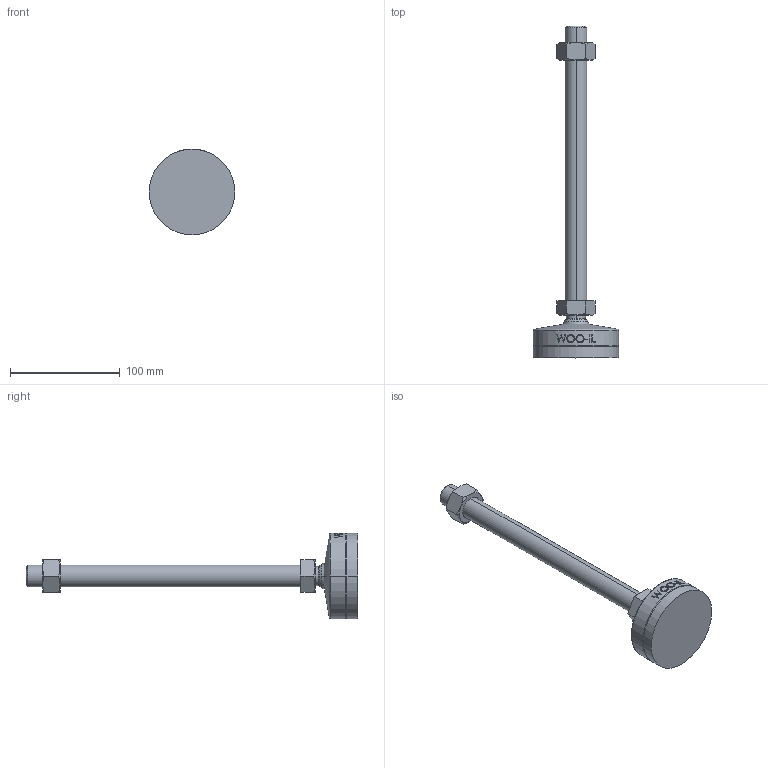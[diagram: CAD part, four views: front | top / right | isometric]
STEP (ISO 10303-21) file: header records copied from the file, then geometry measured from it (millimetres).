
FILE_DESCRIPTION (( 'STEP AP214' ), '1' );
FILE_NAME ('MFNR78-M20-250.step', '2021-02-22T09:08:58', ( '' ), ( '' ), 'SwSTEP 2.0', 'SolidWorks 2019', '' );
FILE_SCHEMA (( 'AUTOMOTIVE_DESIGN' ));
Length unit declared in the file: millimetre
Products named in the file (2): MFNR78-M20-250
Bounding box: 78 x 302 x 78 mm (x, y, z)
Volume: 232728.2 mm3; surface area: 38246.7 mm2
Topology: 2 solids, 2 shells, 105 faces, 245 edges, 156 vertices
Faces by surface type: plane 47, cone 18, cylinder 18, bspline 16, torus 4, sphere 2
Entity records: 4529 total; most frequent: CARTESIAN_POINT 2192, ORIENTED_EDGE 490, DIRECTION 437, EDGE_CURVE 245, AXIS2_PLACEMENT_3D 167, VERTEX_POINT 156, EDGE_LOOP 119, FACE_OUTER_BOUND 105
